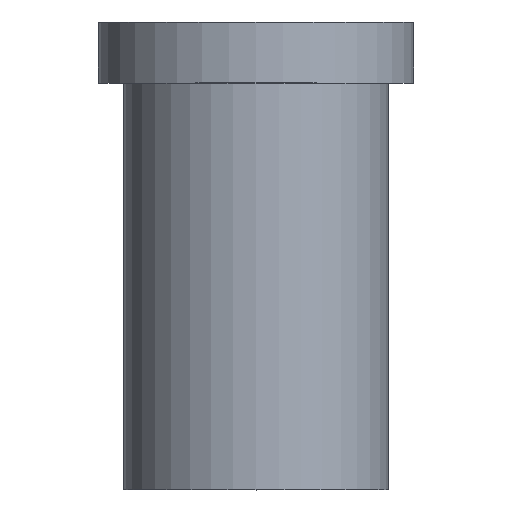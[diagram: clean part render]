
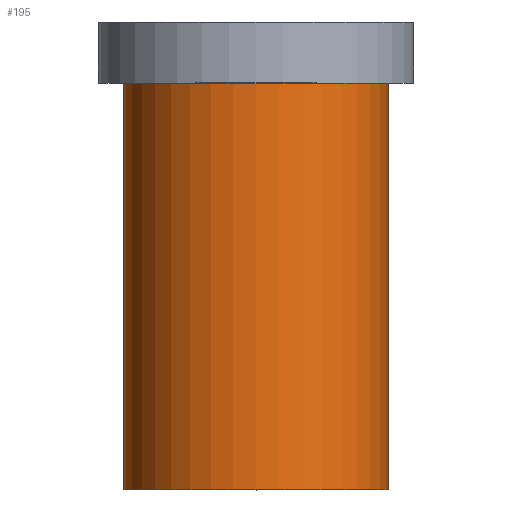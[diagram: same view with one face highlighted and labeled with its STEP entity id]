
A CAD part, top view. The second image highlights one B-rep face of the part: STEP entity #195.
In plain terms, the highlighted cylindrical face has radius 13 mm (diameter 26 mm), a full revolution.
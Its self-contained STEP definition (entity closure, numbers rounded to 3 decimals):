
#32=ORIENTED_EDGE('',*,*,#50,.T.);
#33=ORIENTED_EDGE('',*,*,#49,.F.);
#49=EDGE_CURVE('',#59,#59,#69,.T.);
#50=EDGE_CURVE('',#60,#60,#70,.T.);
#59=VERTEX_POINT('',#280);
#60=VERTEX_POINT('',#283);
#69=CIRCLE('',#213,13.);
#70=CIRCLE('',#215,13.);
#82=EDGE_LOOP('',(#32));
#83=EDGE_LOOP('',(#33));
#102=FACE_BOUND('',#82,.T.);
#103=FACE_BOUND('',#83,.T.);
#117=CYLINDRICAL_SURFACE('',#214,13.);
#195=ADVANCED_FACE('',(#102,#103),#117,.T.);
#213=AXIS2_PLACEMENT_3D('',#279,#241,#242);
#214=AXIS2_PLACEMENT_3D('',#281,#243,#244);
#215=AXIS2_PLACEMENT_3D('',#282,#245,#246);
#241=DIRECTION('',(0.,-1.,0.));
#242=DIRECTION('',(0.,0.,-1.));
#243=DIRECTION('',(0.,-1.,0.));
#244=DIRECTION('',(0.,0.,-1.));
#245=DIRECTION('',(0.,-1.,0.));
#246=DIRECTION('',(0.,0.,-1.));
#279=CARTESIAN_POINT('',(0.,0.,0.));
#280=CARTESIAN_POINT('',(0.,0.,-13.));
#281=CARTESIAN_POINT('',(0.,0.,0.));
#282=CARTESIAN_POINT('',(0.,40.,0.));
#283=CARTESIAN_POINT('',(0.,40.,-13.));
